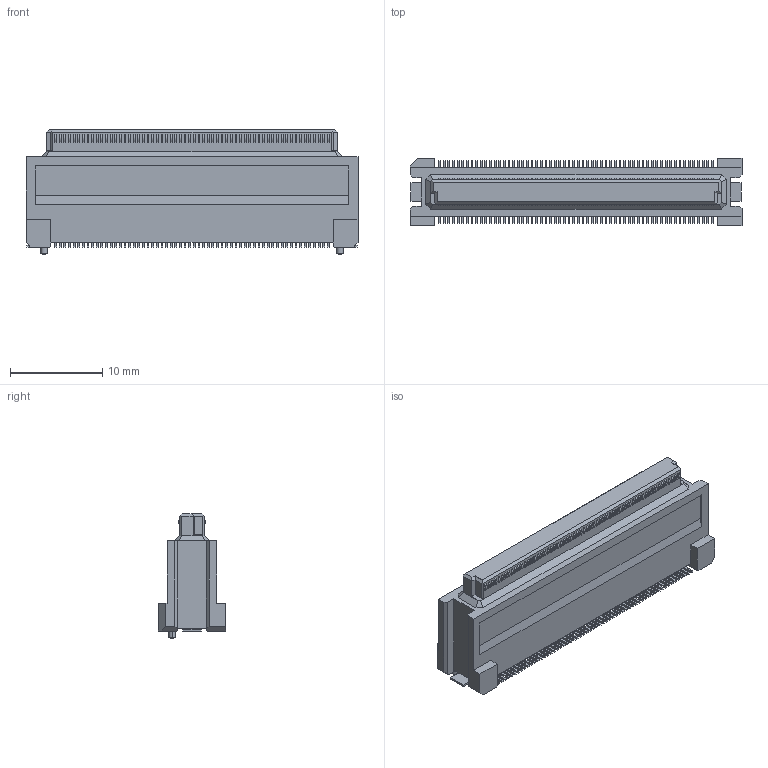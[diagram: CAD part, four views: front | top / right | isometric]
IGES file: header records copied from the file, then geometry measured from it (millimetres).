
Start section: Elysium IGES Interface
Global section: file name: C:\Users\1354\Desktop\DY11-120FS-4.igs; native system: Creo Elements/Direct Modeling 19.0F  14-Feb-2017; preprocessor: Creo Element/Direct IGES_3D V2.2; author: Unknown; organization: Unknown; date: 20171127.163005; units: millimetre
Bounding box: 35.9 x 7.3 x 13.5 mm (x, y, z)
Volume: 1841.1 mm3; surface area: 1643.5 mm2
Topology: 1 solids, 1 shells, 1720 faces, 4733 edges, 3142 vertices
Faces by surface type: bspline 1720
